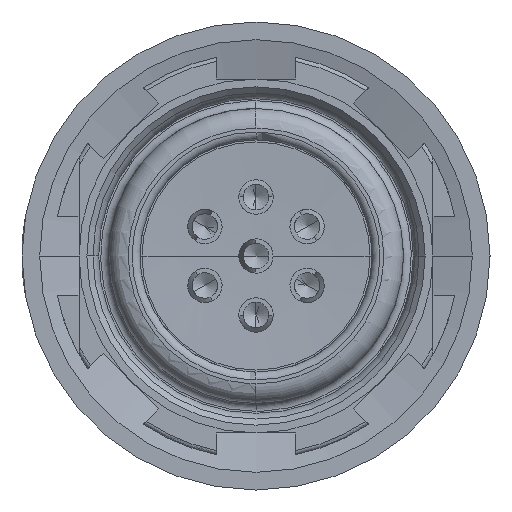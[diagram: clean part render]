
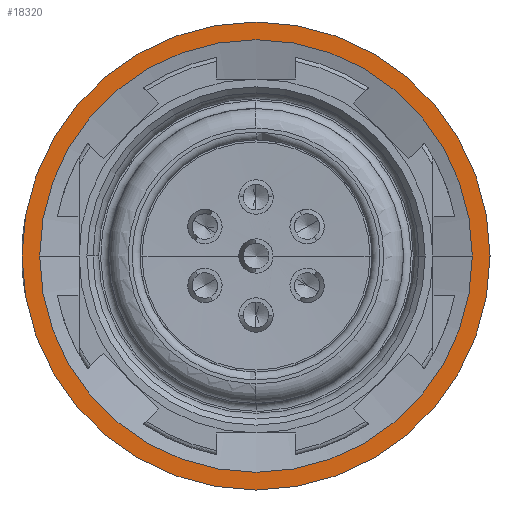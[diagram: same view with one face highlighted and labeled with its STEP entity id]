
A CAD part, left-side view. The second image highlights one B-rep face of the part: STEP entity #18320.
In plain terms, the highlighted planar face has unit normal (-1, 0, 0).
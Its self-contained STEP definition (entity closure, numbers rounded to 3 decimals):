
#5534=CARTESIAN_POINT('',(-5.,0.,0.));
#5535=DIRECTION('',(1.,0.,0.));
#5536=DIRECTION('',(0.,1.,0.));
#5537=AXIS2_PLACEMENT_3D('',#5534,#5535,#5536);
#5539=CARTESIAN_POINT('',(-5.,0.,0.));
#5540=DIRECTION('',(1.,0.,0.));
#5541=DIRECTION('',(0.,-1.,0.));
#5542=AXIS2_PLACEMENT_3D('',#5539,#5540,#5541);
#5544=CARTESIAN_POINT('',(-5.,0.,0.));
#5545=DIRECTION('',(-1.,0.,0.));
#5546=DIRECTION('',(0.,1.,0.));
#5547=AXIS2_PLACEMENT_3D('',#5544,#5545,#5546);
#5549=CARTESIAN_POINT('',(-5.,0.,0.));
#5550=DIRECTION('',(-1.,0.,0.));
#5551=DIRECTION('',(0.,-1.,0.));
#5552=AXIS2_PLACEMENT_3D('',#5549,#5550,#5551);
#9465=CARTESIAN_POINT('',(-5.,5.5,0.));
#9466=VERTEX_POINT('',#9465);
#9467=CARTESIAN_POINT('',(-5.,-5.5,0.));
#9468=VERTEX_POINT('',#9467);
#9471=CARTESIAN_POINT('',(-5.,5.95,0.));
#9472=CARTESIAN_POINT('',(-5.,-5.95,0.));
#9473=VERTEX_POINT('',#9471);
#9474=VERTEX_POINT('',#9472);
#18305=CARTESIAN_POINT('',(-5.,0.,0.));
#18306=DIRECTION('',(-1.,0.,0.));
#18307=DIRECTION('',(0.,-1.,0.));
#18308=AXIS2_PLACEMENT_3D('',#18305,#18306,#18307);
#18309=PLANE('',#18308);
#18311=ORIENTED_EDGE('',*,*,#18310,.T.);
#18313=ORIENTED_EDGE('',*,*,#18312,.T.);
#18314=EDGE_LOOP('',(#18311,#18313));
#18315=FACE_OUTER_BOUND('',#18314,.F.);
#18316=ORIENTED_EDGE('',*,*,#18271,.T.);
#18317=ORIENTED_EDGE('',*,*,#18247,.T.);
#18318=EDGE_LOOP('',(#18316,#18317));
#18319=FACE_BOUND('',#18318,.F.);
#5538=CIRCLE('',#5537,5.95);
#5543=CIRCLE('',#5542,5.95);
#5548=CIRCLE('',#5547,5.5);
#5553=CIRCLE('',#5552,5.5);
#18247=EDGE_CURVE('',#9468,#9466,#5553,.T.);
#18271=EDGE_CURVE('',#9466,#9468,#5548,.T.);
#18310=EDGE_CURVE('',#9473,#9474,#5538,.T.);
#18312=EDGE_CURVE('',#9474,#9473,#5543,.T.);
#18320=ADVANCED_FACE('',(#18315,#18319),#18309,.T.);
